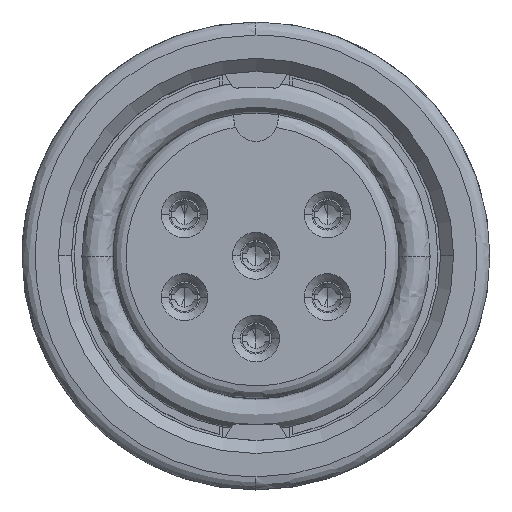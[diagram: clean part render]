
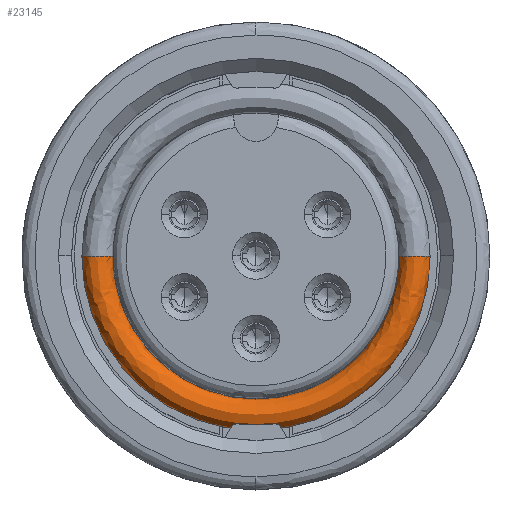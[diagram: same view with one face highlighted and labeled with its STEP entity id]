
A CAD part, top view. The second image highlights one B-rep face of the part: STEP entity #23145.
In plain terms, the highlighted free-form (B-spline) face has degree [3, 3] with [4, 4] control points.
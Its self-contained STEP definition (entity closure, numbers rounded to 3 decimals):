
#681 = ORIENTED_EDGE ( 'NONE', *, *, #16252, .T. ) ;
#1420 = CARTESIAN_POINT ( 'NONE',  ( 5.5, -11., -7.2 ) ) ;
#3675 = CARTESIAN_POINT ( 'NONE',  ( 6.7, -13.4, -7.2 ) ) ;
#3755 = DIRECTION ( 'NONE',  ( -1., 0., 0. ) ) ;
#4187 = CARTESIAN_POINT ( 'NONE',  ( -5.5, -11., -7.2 ) ) ;
#5763 = ORIENTED_EDGE ( 'NONE', *, *, #22393, .T. ) ;
#6236 = ORIENTED_EDGE ( 'NONE', *, *, #23758, .T. ) ;
#7346 = DIRECTION ( 'NONE',  ( 0., 0., -1. ) ) ;
#7477 = VERTEX_POINT ( 'NONE', #24944 ) ;
#8041 = DIRECTION ( 'NONE',  ( 0., -1., 0. ) ) ;
#8091 = AXIS2_PLACEMENT_3D ( 'NONE', #13707, #8041, #21261 ) ;
#9685 = CARTESIAN_POINT ( 'NONE',  ( 6.7, -13.4, -6. ) ) ;
#10221 = VERTEX_POINT ( 'NONE', #19821 ) ;
#12016 = CARTESIAN_POINT ( 'NONE',  ( 0., 0., -7.2 ) ) ;
#12107 = CARTESIAN_POINT ( 'NONE',  ( 5.5, 0., -6. ) ) ;
#12181 = AXIS2_PLACEMENT_3D ( 'NONE', #28967, #7346, #15764 ) ;
#12269 = DIRECTION ( 'NONE',  ( 1., 0., 0. ) ) ;
#13049 = CIRCLE ( 'NONE', #21280, 0.6 ) ;
#13707 = CARTESIAN_POINT ( 'NONE',  ( -6.1, 0., -7.2 ) ) ;
#14169 = CARTESIAN_POINT ( 'NONE',  ( 6.7, 0., -6. ) ) ;
#14308 = EDGE_LOOP ( 'NONE', ( #6236, #5763, #681, #24522 ) ) ;
#14851 = FACE_OUTER_BOUND ( 'NONE', #14308, .T. ) ;
#15143 = CARTESIAN_POINT ( 'NONE',  ( 5.5, 0., -7.2 ) ) ;
#15764 = DIRECTION ( 'NONE',  ( -1., 0., 0. ) ) ;
#16252 = EDGE_CURVE ( 'NONE', #31448, #22094, #32442, .T. ) ;
#16516 =( BOUNDED_SURFACE ( )  B_SPLINE_SURFACE ( 3, 3, ( 
 ( #22744, #3675, #19664, #27385 ),
 ( #14169, #9685, #24813, #19832 ),
 ( #12107, #20169, #22224, #27718 ),
 ( #24976, #1420, #4187, #30114 ) ),
 .UNSPECIFIED., .F., .F., .T. ) 
 B_SPLINE_SURFACE_WITH_KNOTS ( ( 4, 4 ),
 ( 4, 4 ),
 ( 0., 1. ),
 ( 0., 1. ),
 .UNSPECIFIED. ) 
 GEOMETRIC_REPRESENTATION_ITEM ( )  RATIONAL_B_SPLINE_SURFACE ( (
 ( 1., 0.333, 0.333, 1.),
 ( 0.333, 0.111, 0.111, 0.333),
 ( 0.333, 0.111, 0.111, 0.333),
 ( 1., 0.333, 0.333, 1.) ) ) 
 REPRESENTATION_ITEM ( '' )  SURFACE ( )  );
#17006 = DIRECTION ( 'NONE',  ( 0., 0., 1. ) ) ;
#17755 = CARTESIAN_POINT ( 'NONE',  ( 6.1, 0., -7.2 ) ) ;
#19664 = CARTESIAN_POINT ( 'NONE',  ( -6.7, -13.4, -7.2 ) ) ;
#19821 = CARTESIAN_POINT ( 'NONE',  ( -6.7, 0., -7.2 ) ) ;
#19832 = CARTESIAN_POINT ( 'NONE',  ( -6.7, 0., -6. ) ) ;
#19866 = CARTESIAN_POINT ( 'NONE',  ( -5.5, 0., -7.2 ) ) ;
#20169 = CARTESIAN_POINT ( 'NONE',  ( 5.5, -11., -6. ) ) ;
#21261 = DIRECTION ( 'NONE',  ( -1., 0., 0. ) ) ;
#21280 = AXIS2_PLACEMENT_3D ( 'NONE', #17755, #28050, #12269 ) ;
#22094 = VERTEX_POINT ( 'NONE', #19866 ) ;
#22224 = CARTESIAN_POINT ( 'NONE',  ( -5.5, -11., -6. ) ) ;
#22393 = EDGE_CURVE ( 'NONE', #7477, #31448, #13049, .T. ) ;
#22744 = CARTESIAN_POINT ( 'NONE',  ( 6.7, 0., -7.2 ) ) ;
#23145 = ADVANCED_FACE ( 'NONE', ( #14851 ), #16516, .T. ) ;
#23758 = EDGE_CURVE ( 'NONE', #10221, #7477, #24629, .T. ) ;
#24522 = ORIENTED_EDGE ( 'NONE', *, *, #32753, .T. ) ;
#24629 = CIRCLE ( 'NONE', #27907, 6.7 ) ;
#24813 = CARTESIAN_POINT ( 'NONE',  ( -6.7, -13.4, -6. ) ) ;
#24944 = CARTESIAN_POINT ( 'NONE',  ( 6.7, 0., -7.2 ) ) ;
#24976 = CARTESIAN_POINT ( 'NONE',  ( 5.5, 0., -7.2 ) ) ;
#26744 = CIRCLE ( 'NONE', #8091, 0.6 ) ;
#27385 = CARTESIAN_POINT ( 'NONE',  ( -6.7, 0., -7.2 ) ) ;
#27718 = CARTESIAN_POINT ( 'NONE',  ( -5.5, 0., -6. ) ) ;
#27907 = AXIS2_PLACEMENT_3D ( 'NONE', #12016, #17006, #3755 ) ;
#28050 = DIRECTION ( 'NONE',  ( 0., -1., 0. ) ) ;
#28967 = CARTESIAN_POINT ( 'NONE',  ( 0., 0., -7.2 ) ) ;
#30114 = CARTESIAN_POINT ( 'NONE',  ( -5.5, 0., -7.2 ) ) ;
#31448 = VERTEX_POINT ( 'NONE', #15143 ) ;
#32442 = CIRCLE ( 'NONE', #12181, 5.5 ) ;
#32753 = EDGE_CURVE ( 'NONE', #22094, #10221, #26744, .T. ) ;
